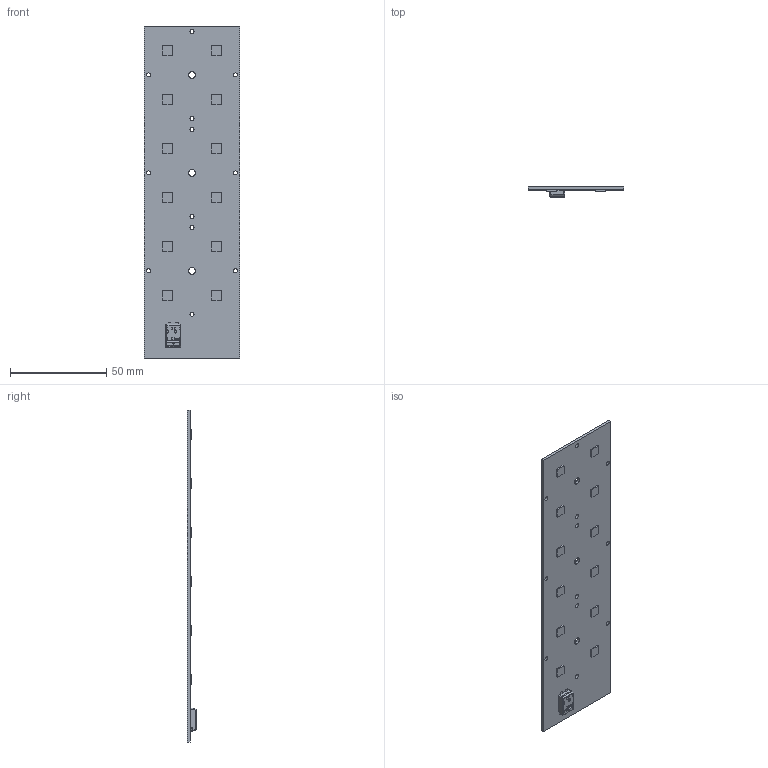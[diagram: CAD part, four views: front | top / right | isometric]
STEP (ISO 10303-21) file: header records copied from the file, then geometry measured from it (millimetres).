
FILE_DESCRIPTION(/* description */ ('Unknown'),/* implementation_level */ '2;1');
FILE_NAME(/* name */ 'RecLED 173x50mm 2900lm 2x6 5050 Opt G1 sh-000 2019-05-31',/* time_stamp */ '2019-06-03T12:33:49+02:00',/* author */ ('Unknown'),/* organization */ ('Unknown'),/* preprocessor_version */ 'ST-DEVELOPER v16.7',/* originating_system */ 'DEX',/* authorisation */ $);
FILE_SCHEMA (('AUTOMOTIVE_DESIGN {1 0 10303 214 3 1 1}'));
Length unit declared in the file: millimetre
Products named in the file (1): RecLED 173x50mm 2900lm 2x6 5050 Opt G1 sh-000 2019-05-31
Bounding box: 49.5 x 4.95 x 172.2 mm (x, y, z)
Volume: 13139.6 mm3; surface area: 18262.2 mm2
Topology: 1 solids, 1 shells, 508 faces, 1334 edges, 839 vertices
Faces by surface type: plane 249, cylinder 125, bspline 87, cone 26, torus 11, sphere 10
Full cylindrical faces by diameter (mm): 2.1 x12, 3.5 x3
Entity records: 21176 total; most frequent: CARTESIAN_POINT 6083, ORIENTED_EDGE 2570, DIRECTION 2038, EDGE_CURVE 1285, VERTEX_POINT 819, LINE 724, VECTOR 724, AXIS2_PLACEMENT_3D 657
